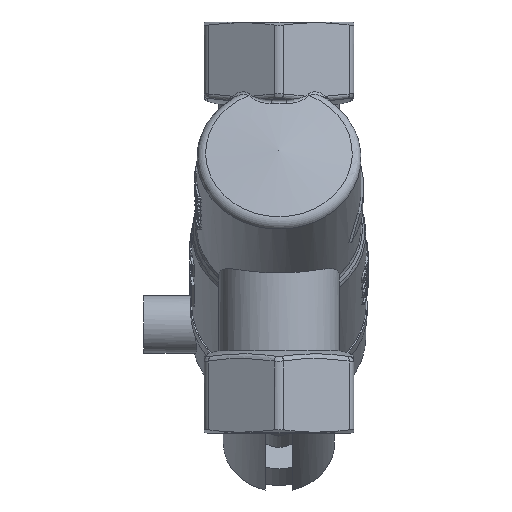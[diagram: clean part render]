
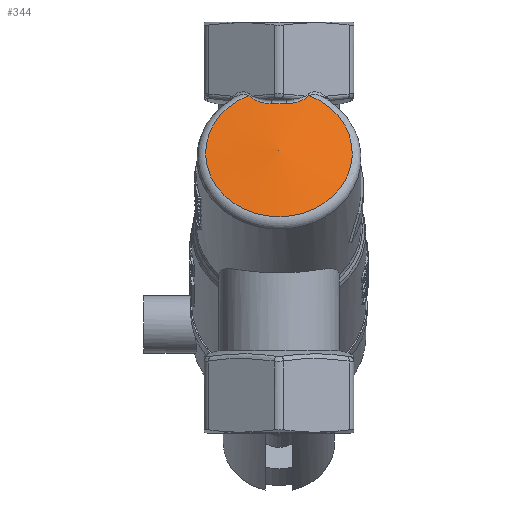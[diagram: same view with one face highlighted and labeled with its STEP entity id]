
A CAD part, top view. The second image highlights one B-rep face of the part: STEP entity #344.
In plain terms, the highlighted conical face has half-angle 85 degrees and reference radius 7.587 mm.
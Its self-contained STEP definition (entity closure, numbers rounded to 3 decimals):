
#344=ADVANCED_FACE('',(#9481),#9483,.T.);
#9481=FACE_BOUND('',#9482,.T.);
#9482=EDGE_LOOP('',(#16497,#16498,#16499,#16500,#16501,#16502,#16503));
#9483=CONICAL_SURFACE('',#9484,7.587,1.484);
#9484=AXIS2_PLACEMENT_3D('',#9485,#9486,#9487);
#9485=CARTESIAN_POINT('',(0.,12.662,21.931));
#9486=DIRECTION('',(0.,-0.5,-0.866));
#9487=DIRECTION('',(0.,-0.866,0.5));
#16497=ORIENTED_EDGE('',*,*,#21039,.T.);
#16498=ORIENTED_EDGE('',*,*,#21040,.T.);
#16499=ORIENTED_EDGE('',*,*,#21041,.T.);
#16500=ORIENTED_EDGE('',*,*,#21042,.T.);
#16501=ORIENTED_EDGE('',*,*,#21043,.T.);
#16502=ORIENTED_EDGE('',*,*,#21044,.T.);
#16503=ORIENTED_EDGE('',*,*,#20528,.T.);
#20528=EDGE_CURVE('',#23338,#23336,#23339,.T.);
#21039=EDGE_CURVE('',#23336,#24153,#24154,.T.);
#21040=EDGE_CURVE('',#24153,#24155,#24156,.F.);
#21041=EDGE_CURVE('',#24155,#24157,#24158,.F.);
#21042=EDGE_CURVE('',#24157,#24159,#24160,.F.);
#21043=EDGE_CURVE('',#24159,#24161,#24162,.F.);
#21044=EDGE_CURVE('',#24161,#23338,#24163,.F.);
#23336=VERTEX_POINT('',#35094);
#23338=VERTEX_POINT('',#35110);
#23339=CIRCLE('',#35111,15.174);
#24153=VERTEX_POINT('',#39280);
#24154=B_SPLINE_CURVE_WITH_KNOTS('',3,
(#39281,#39282,#39283,#39284,#39285,#39286),
.UNSPECIFIED.,.F.,.F.,
(4,1,1,4),
(0.,0.333,0.667,1.),
.UNSPECIFIED.);
#24155=VERTEX_POINT('',#39287);
#24156=B_SPLINE_CURVE_WITH_KNOTS('',3,
(#39288,#39289,#39290,#39291,#39292,#39293,#39294,#39295,#39296,#39297,#39298,#39299,
#39300,#39301,#39302,#39303,#39304,#39305,#39306),
.UNSPECIFIED.,.F.,.F.,
(4,1,1,1,1,1,1,1,1,1,1,1,1,1,1,1,4),
(0.,0.068,0.128,0.18,0.23,0.29,
0.366,0.454,0.545,0.628,0.706,
0.772,0.828,0.872,0.92,0.962,
1.),
.UNSPECIFIED.);
#24157=VERTEX_POINT('',#39307);
#24158=B_SPLINE_CURVE_WITH_KNOTS('',3,
(#39308,#39309,#39310,#39311,#39312,#39313),
.UNSPECIFIED.,.F.,.F.,
(4,1,1,4),
(0.,0.333,0.667,1.),
.UNSPECIFIED.);
#24159=VERTEX_POINT('',#39314);
#24160=B_SPLINE_CURVE_WITH_KNOTS('',3,
(#39315,#39316,#39317,#39318,#39319,#39320),
.UNSPECIFIED.,.F.,.F.,
(4,1,1,4),
(0.,0.333,0.667,1.),
.UNSPECIFIED.);
#24161=VERTEX_POINT('',#39321);
#24162=B_SPLINE_CURVE_WITH_KNOTS('',3,
(#39322,#39323,#39324,#39325,#39326,#39327,#39328,#39329,#39330,#39331,#39332,#39333,
#39334,#39335,#39336,#39337,#39338,#39339,#39340,#39341,#39342,#39343,#39344,#39345,
#39346),
.UNSPECIFIED.,.F.,.F.,
(4,1,1,1,1,1,1,1,1,1,1,1,1,1,1,1,1,1,1,1,1,1,4),
(0.,0.043,0.081,0.118,0.166,0.225,
0.295,0.37,0.454,0.542,0.638,
0.721,0.785,0.823,0.85,0.871,
0.89,0.907,0.921,0.942,0.964,
0.986,1.),
.UNSPECIFIED.);
#24163=B_SPLINE_CURVE_WITH_KNOTS('',3,
(#39347,#39348,#39349,#39350,#39351,#39352),
.UNSPECIFIED.,.F.,.F.,
(4,1,1,4),
(0.,0.333,0.667,1.),
.UNSPECIFIED.);
#35094=CARTESIAN_POINT('',(6.292,24.288,14.452));
#35110=CARTESIAN_POINT('',(-6.292,24.288,14.452));
#35111=AXIS2_PLACEMENT_3D('',#35112,#35113,#35114);
#35112=CARTESIAN_POINT('',(0.,12.33,21.356));
#35113=DIRECTION('',(0.,0.5,0.866));
#35114=DIRECTION('',(-0.415,0.788,-0.455));
#39280=CARTESIAN_POINT('',(5.69,23.82,14.8));
#39281=CARTESIAN_POINT('',(6.292,24.288,14.452));
#39282=CARTESIAN_POINT('',(6.225,24.236,14.491));
#39283=CARTESIAN_POINT('',(6.091,24.132,14.568));
#39284=CARTESIAN_POINT('',(5.89,23.976,14.684));
#39285=CARTESIAN_POINT('',(5.756,23.872,14.761));
#39286=CARTESIAN_POINT('',(5.69,23.82,14.8));
#39287=CARTESIAN_POINT('',(1.569,22.588,15.777));
#39288=CARTESIAN_POINT('',(1.569,22.588,15.777));
#39289=CARTESIAN_POINT('',(1.667,22.599,15.767));
#39290=CARTESIAN_POINT('',(1.858,22.597,15.766));
#39291=CARTESIAN_POINT('',(2.126,22.617,15.747));
#39292=CARTESIAN_POINT('',(2.367,22.643,15.724));
#39293=CARTESIAN_POINT('',(2.605,22.675,15.696));
#39294=CARTESIAN_POINT('',(2.877,22.719,15.659));
#39295=CARTESIAN_POINT('',(3.201,22.783,15.607));
#39296=CARTESIAN_POINT('',(3.565,22.869,15.536));
#39297=CARTESIAN_POINT('',(3.932,22.974,15.452));
#39298=CARTESIAN_POINT('',(4.28,23.09,15.36));
#39299=CARTESIAN_POINT('',(4.586,23.208,15.267));
#39300=CARTESIAN_POINT('',(4.848,23.322,15.178));
#39301=CARTESIAN_POINT('',(5.061,23.426,15.098));
#39302=CARTESIAN_POINT('',(5.244,23.525,15.022));
#39303=CARTESIAN_POINT('',(5.408,23.623,14.948));
#39304=CARTESIAN_POINT('',(5.558,23.721,14.874));
#39305=CARTESIAN_POINT('',(5.648,23.788,14.824));
#39306=CARTESIAN_POINT('',(5.69,23.82,14.8));
#39307=CARTESIAN_POINT('',(0.,22.573,15.798));
#39308=CARTESIAN_POINT('',(0.,22.573,15.798));
#39309=CARTESIAN_POINT('',(0.174,22.573,15.798));
#39310=CARTESIAN_POINT('',(0.523,22.574,15.797));
#39311=CARTESIAN_POINT('',(1.046,22.579,15.789));
#39312=CARTESIAN_POINT('',(1.395,22.583,15.782));
#39313=CARTESIAN_POINT('',(1.569,22.588,15.777));
#39314=CARTESIAN_POINT('',(-1.569,22.588,15.777));
#39315=CARTESIAN_POINT('',(-1.569,22.588,15.777));
#39316=CARTESIAN_POINT('',(-1.395,22.583,15.782));
#39317=CARTESIAN_POINT('',(-1.046,22.579,15.789));
#39318=CARTESIAN_POINT('',(-0.523,22.574,15.797));
#39319=CARTESIAN_POINT('',(-0.174,22.573,15.798));
#39320=CARTESIAN_POINT('',(0.,22.573,15.798));
#39321=CARTESIAN_POINT('',(-5.69,23.82,14.8));
#39322=CARTESIAN_POINT('',(-5.69,23.82,14.8));
#39323=CARTESIAN_POINT('',(-5.643,23.784,14.827));
#39324=CARTESIAN_POINT('',(-5.552,23.717,14.877));
#39325=CARTESIAN_POINT('',(-5.413,23.626,14.946));
#39326=CARTESIAN_POINT('',(-5.263,23.536,15.014));
#39327=CARTESIAN_POINT('',(-5.084,23.438,15.089));
#39328=CARTESIAN_POINT('',(-4.858,23.326,15.174));
#39329=CARTESIAN_POINT('',(-4.59,23.209,15.266));
#39330=CARTESIAN_POINT('',(-4.283,23.091,15.359));
#39331=CARTESIAN_POINT('',(-3.943,22.977,15.449));
#39332=CARTESIAN_POINT('',(-3.568,22.87,15.535));
#39333=CARTESIAN_POINT('',(-3.187,22.779,15.609));
#39334=CARTESIAN_POINT('',(-2.835,22.711,15.666));
#39335=CARTESIAN_POINT('',(-2.564,22.669,15.701));
#39336=CARTESIAN_POINT('',(-2.374,22.645,15.723));
#39337=CARTESIAN_POINT('',(-2.247,22.631,15.735));
#39338=CARTESIAN_POINT('',(-2.149,22.621,15.744));
#39339=CARTESIAN_POINT('',(-2.064,22.613,15.751));
#39340=CARTESIAN_POINT('',(-1.989,22.608,15.756));
#39341=CARTESIAN_POINT('',(-1.91,22.601,15.762));
#39342=CARTESIAN_POINT('',(-1.825,22.598,15.766));
#39343=CARTESIAN_POINT('',(-1.729,22.596,15.768));
#39344=CARTESIAN_POINT('',(-1.642,22.593,15.772));
#39345=CARTESIAN_POINT('',(-1.589,22.59,15.775));
#39346=CARTESIAN_POINT('',(-1.569,22.588,15.777));
#39347=CARTESIAN_POINT('',(-6.292,24.288,14.452));
#39348=CARTESIAN_POINT('',(-6.225,24.236,14.491));
#39349=CARTESIAN_POINT('',(-6.091,24.132,14.568));
#39350=CARTESIAN_POINT('',(-5.89,23.976,14.684));
#39351=CARTESIAN_POINT('',(-5.756,23.872,14.761));
#39352=CARTESIAN_POINT('',(-5.69,23.82,14.8));
